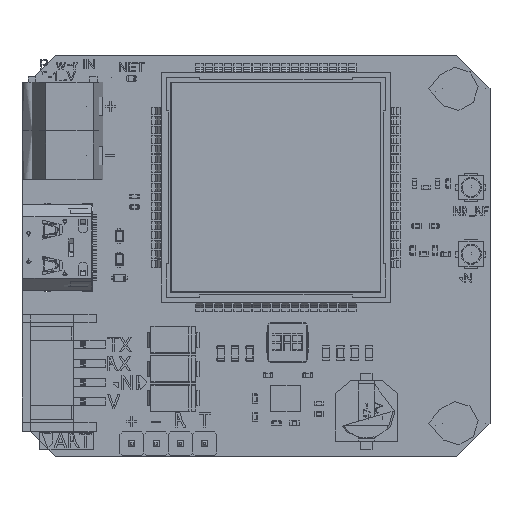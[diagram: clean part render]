
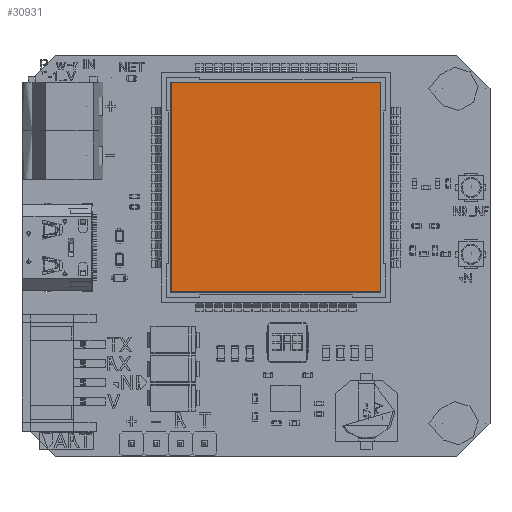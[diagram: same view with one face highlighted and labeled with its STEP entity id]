
A CAD part, top view. The second image highlights one B-rep face of the part: STEP entity #30931.
In plain terms, the highlighted planar face has unit normal (0, 0, 1).
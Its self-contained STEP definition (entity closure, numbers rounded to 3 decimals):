
#30931=ADVANCED_FACE('',(#40817),#147557,.T.);
#40817=FACE_OUTER_BOUND('',#50850,.T.);
#50850=EDGE_LOOP('',(#78114,#78115,#78116,#78117,#78118,#78119,#78120,#78121));
#78114=ORIENTED_EDGE('',*,*,#115278,.T.);
#78115=ORIENTED_EDGE('',*,*,#115276,.F.);
#78116=ORIENTED_EDGE('',*,*,#115265,.T.);
#78117=ORIENTED_EDGE('',*,*,#115263,.F.);
#78118=ORIENTED_EDGE('',*,*,#115270,.T.);
#78119=ORIENTED_EDGE('',*,*,#115267,.F.);
#78120=ORIENTED_EDGE('',*,*,#115275,.T.);
#78121=ORIENTED_EDGE('',*,*,#115273,.F.);
#115263=EDGE_CURVE('',#136186,#136187,#156031,.T.);
#115265=EDGE_CURVE('',#136188,#136187,#156033,.T.);
#115267=EDGE_CURVE('',#136189,#136190,#156035,.T.);
#115270=EDGE_CURVE('',#136186,#136190,#156038,.T.);
#115273=EDGE_CURVE('',#136183,#136185,#156041,.T.);
#115275=EDGE_CURVE('',#136189,#136185,#156043,.T.);
#115276=EDGE_CURVE('',#136188,#136184,#156044,.T.);
#115278=EDGE_CURVE('',#136183,#136184,#156046,.T.);
#136183=VERTEX_POINT('',#297800);
#136184=VERTEX_POINT('',#297801);
#136185=VERTEX_POINT('',#297802);
#136186=VERTEX_POINT('',#297803);
#136187=VERTEX_POINT('',#297804);
#136188=VERTEX_POINT('',#297805);
#136189=VERTEX_POINT('',#297806);
#136190=VERTEX_POINT('',#297807);
#147557=PLANE('',#195980);
#156031=(
BOUNDED_CURVE()
B_SPLINE_CURVE(1,(#297872,#297873),.UNSPECIFIED.,.F.,.F.)
B_SPLINE_CURVE_WITH_KNOTS((2,2),(0.,21.8),
 .UNSPECIFIED.)
CURVE()
GEOMETRIC_REPRESENTATION_ITEM()
RATIONAL_B_SPLINE_CURVE((1.,1.))
REPRESENTATION_ITEM('')
);
#156033=(
BOUNDED_CURVE()
B_SPLINE_CURVE(2,(#297877,#297878,#297879,#297880,#297881),
 .UNSPECIFIED.,.F.,.F.)
B_SPLINE_CURVE_WITH_KNOTS((3,2,3),(0.,0.039,0.079),
 .UNSPECIFIED.)
CURVE()
GEOMETRIC_REPRESENTATION_ITEM()
RATIONAL_B_SPLINE_CURVE((1.,0.924,1.,0.924,1.))
REPRESENTATION_ITEM('')
);
#156035=(
BOUNDED_CURVE()
B_SPLINE_CURVE(1,(#297885,#297886),.UNSPECIFIED.,.F.,.F.)
B_SPLINE_CURVE_WITH_KNOTS((2,2),(0.,21.8),
 .UNSPECIFIED.)
CURVE()
GEOMETRIC_REPRESENTATION_ITEM()
RATIONAL_B_SPLINE_CURVE((1.,1.))
REPRESENTATION_ITEM('')
);
#156038=(
BOUNDED_CURVE()
B_SPLINE_CURVE(2,(#297893,#297894,#297895,#297896,#297897),
 .UNSPECIFIED.,.F.,.F.)
B_SPLINE_CURVE_WITH_KNOTS((3,2,3),(0.,0.039,0.079),
 .UNSPECIFIED.)
CURVE()
GEOMETRIC_REPRESENTATION_ITEM()
RATIONAL_B_SPLINE_CURVE((1.,0.924,1.,0.924,1.))
REPRESENTATION_ITEM('')
);
#156041=(
BOUNDED_CURVE()
B_SPLINE_CURVE(1,(#297904,#297905),.UNSPECIFIED.,.F.,.F.)
B_SPLINE_CURVE_WITH_KNOTS((2,2),(0.,21.8),
 .UNSPECIFIED.)
CURVE()
GEOMETRIC_REPRESENTATION_ITEM()
RATIONAL_B_SPLINE_CURVE((1.,1.))
REPRESENTATION_ITEM('')
);
#156043=(
BOUNDED_CURVE()
B_SPLINE_CURVE(2,(#297909,#297910,#297911,#297912,#297913),
 .UNSPECIFIED.,.F.,.F.)
B_SPLINE_CURVE_WITH_KNOTS((3,2,3),(0.,0.039,0.079),
 .UNSPECIFIED.)
CURVE()
GEOMETRIC_REPRESENTATION_ITEM()
RATIONAL_B_SPLINE_CURVE((1.,0.924,1.,0.924,1.))
REPRESENTATION_ITEM('')
);
#156044=(
BOUNDED_CURVE()
B_SPLINE_CURVE(1,(#297914,#297915),.UNSPECIFIED.,.F.,.F.)
B_SPLINE_CURVE_WITH_KNOTS((2,2),(0.,21.8),
 .UNSPECIFIED.)
CURVE()
GEOMETRIC_REPRESENTATION_ITEM()
RATIONAL_B_SPLINE_CURVE((1.,1.))
REPRESENTATION_ITEM('')
);
#156046=(
BOUNDED_CURVE()
B_SPLINE_CURVE(2,(#297919,#297920,#297921,#297922,#297923),
 .UNSPECIFIED.,.F.,.F.)
B_SPLINE_CURVE_WITH_KNOTS((3,2,3),(0.,0.039,
0.079),.UNSPECIFIED.)
CURVE()
GEOMETRIC_REPRESENTATION_ITEM()
RATIONAL_B_SPLINE_CURVE((1.,0.924,1.,0.924,1.))
REPRESENTATION_ITEM('')
);
#195980=AXIS2_PLACEMENT_3D('',#297743,#209641,$);
#209641=DIRECTION('',(0.,0.,1.));
#297743=CARTESIAN_POINT('',(-27.241,7.998,2.4));
#297800=CARTESIAN_POINT('',(-5.341,8.048,2.4));
#297801=CARTESIAN_POINT('',(-5.291,8.098,2.4));
#297802=CARTESIAN_POINT('',(-27.141,8.048,2.4));
#297803=CARTESIAN_POINT('',(-27.141,29.948,2.4));
#297804=CARTESIAN_POINT('',(-5.341,29.948,2.4));
#297805=CARTESIAN_POINT('',(-5.291,29.898,2.4));
#297806=CARTESIAN_POINT('',(-27.191,8.098,2.4));
#297807=CARTESIAN_POINT('',(-27.191,29.898,2.4));
#297872=CARTESIAN_POINT('',(-27.141,29.948,2.4));
#297873=CARTESIAN_POINT('',(-5.341,29.948,2.4));
#297877=CARTESIAN_POINT('',(-5.291,29.898,2.4));
#297878=CARTESIAN_POINT('',(-5.291,29.919,2.4));
#297879=CARTESIAN_POINT('',(-5.306,29.934,2.4));
#297880=CARTESIAN_POINT('',(-5.32,29.948,2.4));
#297881=CARTESIAN_POINT('',(-5.341,29.948,2.4));
#297885=CARTESIAN_POINT('',(-27.191,8.098,2.4));
#297886=CARTESIAN_POINT('',(-27.191,29.898,2.4));
#297893=CARTESIAN_POINT('',(-27.141,29.948,2.4));
#297894=CARTESIAN_POINT('',(-27.162,29.948,2.4));
#297895=CARTESIAN_POINT('',(-27.176,29.934,2.4));
#297896=CARTESIAN_POINT('',(-27.191,29.919,2.4));
#297897=CARTESIAN_POINT('',(-27.191,29.898,2.4));
#297904=CARTESIAN_POINT('',(-5.341,8.048,2.4));
#297905=CARTESIAN_POINT('',(-27.141,8.048,2.4));
#297909=CARTESIAN_POINT('',(-27.191,8.098,2.4));
#297910=CARTESIAN_POINT('',(-27.191,8.078,2.4));
#297911=CARTESIAN_POINT('',(-27.176,8.063,2.4));
#297912=CARTESIAN_POINT('',(-27.162,8.048,2.4));
#297913=CARTESIAN_POINT('',(-27.141,8.048,2.4));
#297914=CARTESIAN_POINT('',(-5.291,29.898,2.4));
#297915=CARTESIAN_POINT('',(-5.291,8.098,2.4));
#297919=CARTESIAN_POINT('',(-5.341,8.048,2.4));
#297920=CARTESIAN_POINT('',(-5.32,8.048,2.4));
#297921=CARTESIAN_POINT('',(-5.306,8.063,2.4));
#297922=CARTESIAN_POINT('',(-5.291,8.078,2.4));
#297923=CARTESIAN_POINT('',(-5.291,8.098,2.4));
